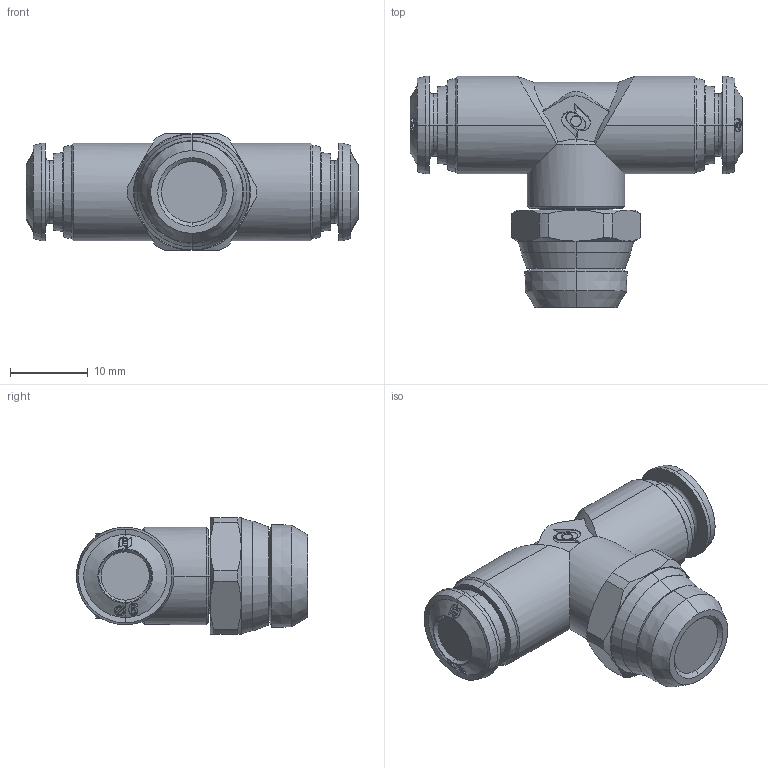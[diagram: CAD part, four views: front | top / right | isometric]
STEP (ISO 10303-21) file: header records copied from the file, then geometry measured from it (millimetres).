
FILE_DESCRIPTION (( 'STEP AP214' ), '1' );
FILE_NAME ('5021100005.step', '2012-10-01T16:48:13', ( '' ), ( '' ), 'SwSTEP 2.0', 'SolidWorks 2012', '' );
FILE_SCHEMA (( 'AUTOMOTIVE_DESIGN' ));
Length unit declared in the file: millimetre
Products named in the file (1): 5021100005
Bounding box: 42.6 x 29.65 x 15 mm (x, y, z)
Volume: 7152.3 mm3; surface area: 3239.6 mm2
Topology: 1 solids, 1 shells, 308 faces, 793 edges, 516 vertices
Faces by surface type: cone 111, bspline 98, plane 48, cylinder 39, torus 12
Entity records: 19950 total; most frequent: CARTESIAN_POINT 10315, ORIENTED_EDGE 1586, DIRECTION 915, EDGE_CURVE 793, VERTEX_POINT 516, B_SPLINE_CURVE_WITH_KNOTS 440, AXIS2_PLACEMENT_3D 376, EDGE_LOOP 337
